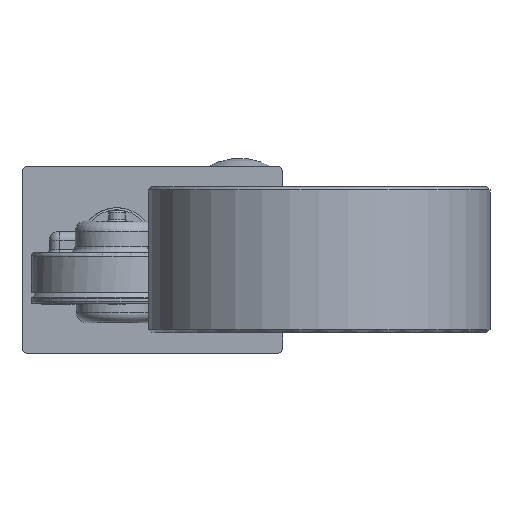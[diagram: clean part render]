
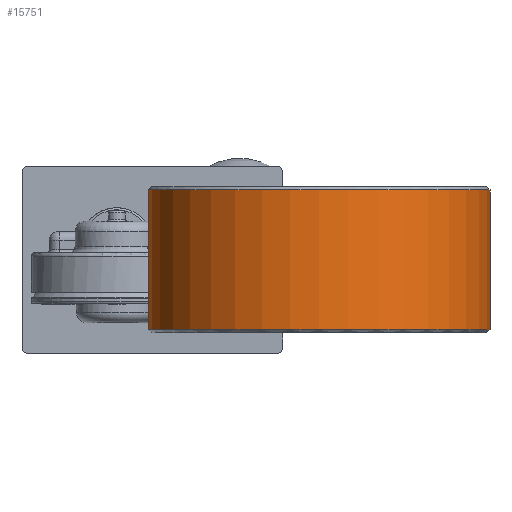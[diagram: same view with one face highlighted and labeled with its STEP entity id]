
A CAD part, left-side view. The second image highlights one B-rep face of the part: STEP entity #15751.
In plain terms, the highlighted cylindrical face has radius 82 mm (diameter 164 mm), a partial arc.
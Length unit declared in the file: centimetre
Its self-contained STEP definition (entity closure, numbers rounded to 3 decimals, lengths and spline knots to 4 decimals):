
#2906=VECTOR('',#20079,1.);
#2908=VECTOR('',#20081,1.);
#3909=LINE('',#34138,#2906);
#3911=LINE('',#34150,#2908);
#6151=VERTEX_POINT('',#34125);
#6152=VERTEX_POINT('',#34127);
#6156=VERTEX_POINT('',#34139);
#6159=VERTEX_POINT('',#34149);
#6705=CIRCLE('',#16980,8.2);
#6709=CIRCLE('',#16986,8.2);
#8652=EDGE_CURVE('',#6151,#6152,#6705,.T.);
#8657=EDGE_CURVE('',#6152,#6156,#3909,.T.);
#8661=EDGE_CURVE('',#6151,#6159,#3911,.T.);
#8663=EDGE_CURVE('',#6156,#6159,#6709,.T.);
#12558=ORIENTED_EDGE('',*,*,#8652,.F.);
#12559=ORIENTED_EDGE('',*,*,#8661,.T.);
#12560=ORIENTED_EDGE('',*,*,#8663,.F.);
#12561=ORIENTED_EDGE('',*,*,#8657,.F.);
#13728=EDGE_LOOP('',(#12558,#12559,#12560,#12561));
#14872=FACE_BOUND('',#13728,.T.);
#15751=ADVANCED_FACE('',(#14872),#34456,.T.);
#16980=AXIS2_PLACEMENT_3D('',#34126,#20070,#20071);
#16985=AXIS2_PLACEMENT_3D('',#34152,#20083,#20084);
#16986=AXIS2_PLACEMENT_3D('',#34153,#20085,#20086);
#20070=DIRECTION('',(0.,0.,1.));
#20071=DIRECTION('',(-8.2,0.,0.));
#20079=DIRECTION('',(0.,0.,-1.));
#20081=DIRECTION('',(0.,0.,-1.));
#20083=DIRECTION('',(0.,0.,-1.));
#20084=DIRECTION('',(-8.2,0.,0.));
#20085=DIRECTION('',(0.,0.,-1.));
#20086=DIRECTION('',(-8.2,0.,0.));
#34125=CARTESIAN_POINT('',(-5.519,-4.9693,5.5968));
#34126=CARTESIAN_POINT('',(-13.519,-6.7693,5.5968));
#34127=CARTESIAN_POINT('',(-5.519,-8.5693,5.5968));
#34138=CARTESIAN_POINT('',(-5.519,-8.5693,5.7468));
#34139=CARTESIAN_POINT('',(-5.519,-8.5693,-1.1032));
#34149=CARTESIAN_POINT('',(-5.519,-4.9693,-1.1032));
#34150=CARTESIAN_POINT('',(-5.519,-4.9693,5.7468));
#34152=CARTESIAN_POINT('',(-13.519,-6.7693,5.7468));
#34153=CARTESIAN_POINT('',(-13.519,-6.7693,-1.1032));
#34456=CYLINDRICAL_SURFACE('',#16985,8.2);
